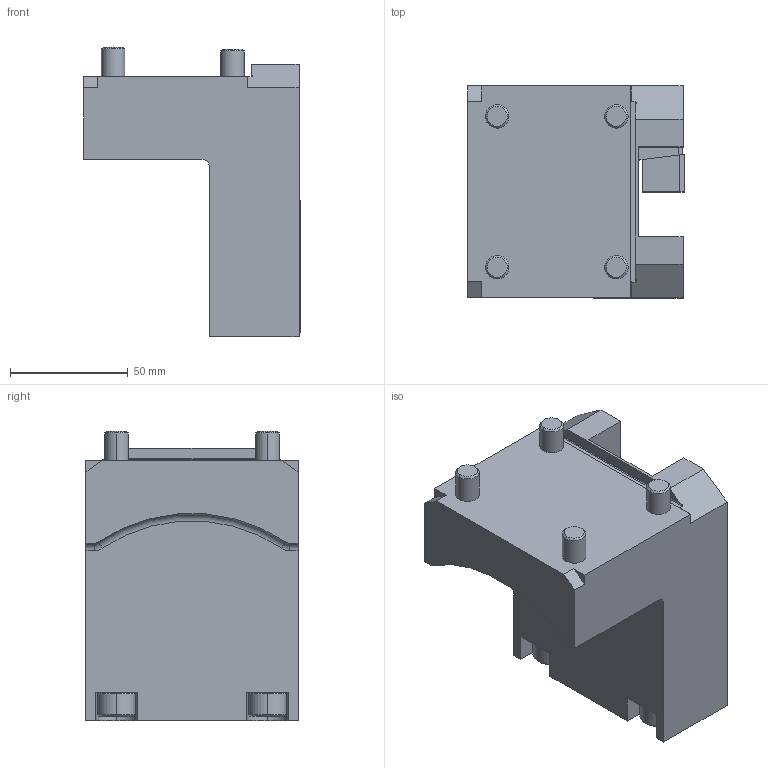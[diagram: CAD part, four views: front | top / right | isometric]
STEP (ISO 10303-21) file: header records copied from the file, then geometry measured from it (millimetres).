
FILE_DESCRIPTION (( 'STEP AP214' ), '1' );
FILE_NAME ('EWS-10317.STEP', '2018-02-14T18:44:45', ( '' ), ( '' ), 'SwSTEP 2.0', 'SolidWorks 2017', '' );
FILE_SCHEMA (( 'AUTOMOTIVE_DESIGN' ));
Length unit declared in the file: inch
Products named in the file (1): EWS-10317
Bounding box: 92.04 x 90 x 122.85 mm (x, y, z)
Volume: 445927.7 mm3; surface area: 62889.5 mm2
Topology: 1 solids, 1 shells, 202 faces, 472 edges, 275 vertices
Faces by surface type: plane 110, cone 56, cylinder 33, torus 3
Entity records: 6021 total; most frequent: CARTESIAN_POINT 1416, DIRECTION 973, ORIENTED_EDGE 928, EDGE_CURVE 464, AXIS2_PLACEMENT_3D 344, VECTOR 285, LINE 285, VERTEX_POINT 275
